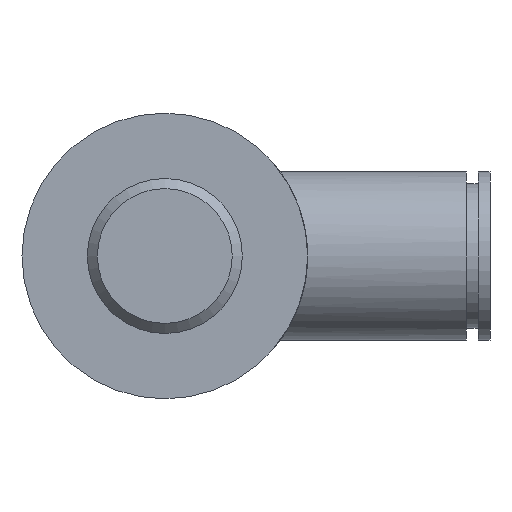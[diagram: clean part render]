
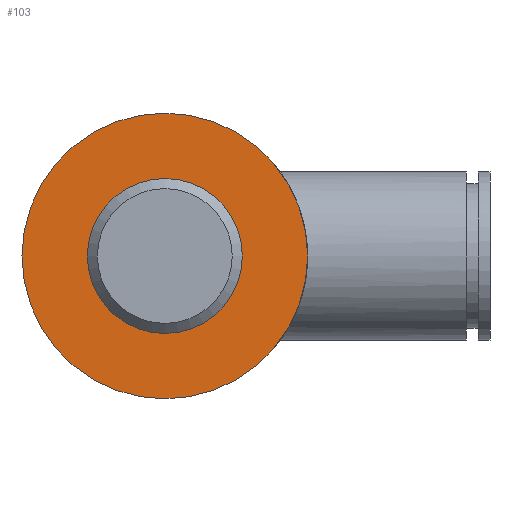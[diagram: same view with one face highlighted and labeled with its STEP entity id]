
A CAD part, front view. The second image highlights one B-rep face of the part: STEP entity #103.
In plain terms, the highlighted planar face has unit normal (0, -1, 0).
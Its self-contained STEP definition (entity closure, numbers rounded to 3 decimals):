
#103=ADVANCED_FACE('',(#177,#178),#179,.F.);
#177=FACE_OUTER_BOUND('',#262,.T.);
#178=FACE_BOUND('',#263,.T.);
#179=PLANE('',#264);
#262=EDGE_LOOP('',(#455));
#263=EDGE_LOOP('',(#456));
#264=AXIS2_PLACEMENT_3D('',#457,#458,#459);
#455=ORIENTED_EDGE('',*,*,#553,.T.);
#456=ORIENTED_EDGE('',*,*,#529,.F.);
#457=CARTESIAN_POINT('',(12.124,0.0,0.0));
#458=DIRECTION('',(-0.0,1.0,0.0));
#459=DIRECTION('',(1.0,0.0,0.0));
#529=EDGE_CURVE('',#610,#610,#611,.T.);
#553=EDGE_CURVE('',#646,#646,#647,.T.);
#610=VERTEX_POINT('',#735);
#611=CIRCLE('',#736,6.579);
#646=VERTEX_POINT('',#842);
#647=CIRCLE('',#843,12.124);
#735=CARTESIAN_POINT('',(0.0,0.0,-6.579));
#736=AXIS2_PLACEMENT_3D('',#891,#892,#893);
#842=CARTESIAN_POINT('',(0.0,0.0,-12.124));
#843=AXIS2_PLACEMENT_3D('',#921,#922,#923);
#891=CARTESIAN_POINT('',(0.0,0.0,0.0));
#892=DIRECTION('',(0.0,-1.0,0.0));
#893=DIRECTION('',(0.0,0.0,-1.0));
#921=CARTESIAN_POINT('',(0.0,0.0,0.0));
#922=DIRECTION('',(0.0,-1.0,0.0));
#923=DIRECTION('',(0.0,0.0,-1.0));
